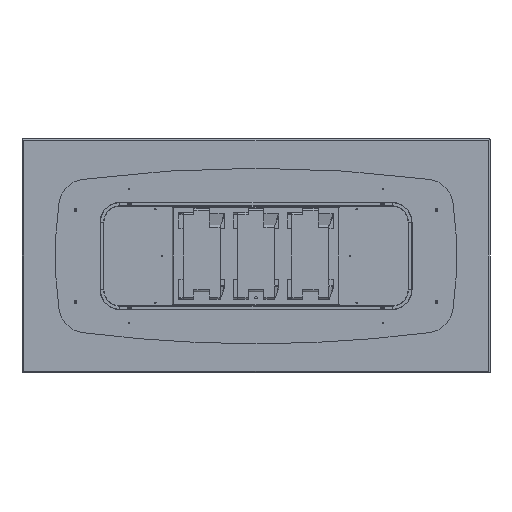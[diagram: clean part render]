
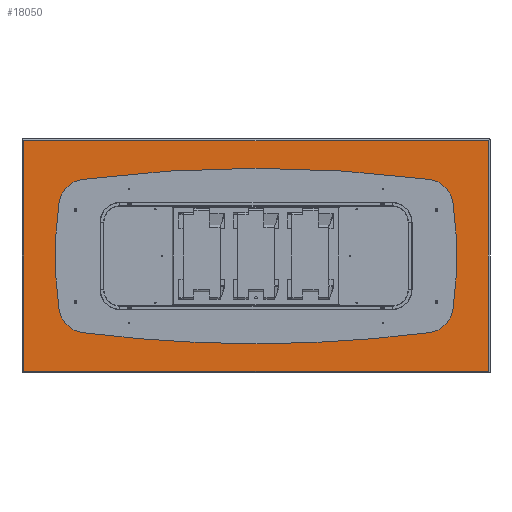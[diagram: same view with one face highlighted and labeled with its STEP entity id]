
A CAD part, front view. The second image highlights one B-rep face of the part: STEP entity #18050.
In plain terms, the highlighted planar face has unit normal (0, -1, 0).
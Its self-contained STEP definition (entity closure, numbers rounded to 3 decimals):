
#117 = CARTESIAN_POINT ( 'NONE',  ( 1190., 0., 590. ) ) ;
#355 = ORIENTED_EDGE ( 'NONE', *, *, #11805, .T. ) ;
#624 = AXIS2_PLACEMENT_3D ( 'NONE', #5022, #1563, #11272 ) ;
#660 = CARTESIAN_POINT ( 'NONE',  ( 925., 0., -235. ) ) ;
#927 = AXIS2_PLACEMENT_3D ( 'NONE', #8760, #15042, #994 ) ;
#968 = VERTEX_POINT ( 'NONE', #8060 ) ;
#994 = DIRECTION ( 'NONE',  ( 0., 0., -1. ) ) ;
#1125 = DIRECTION ( 'NONE',  ( -1., 0., 0. ) ) ;
#1134 = EDGE_CURVE ( 'NONE', #3886, #9268, #19445, .T. ) ;
#1233 = EDGE_CURVE ( 'NONE', #14430, #7913, #18279, .T. ) ;
#1496 = EDGE_LOOP ( 'NONE', ( #5544, #13724 ) ) ;
#1563 = DIRECTION ( 'NONE',  ( 0., -1., 0. ) ) ;
#1655 = CARTESIAN_POINT ( 'NONE',  ( -925., 0., 237.5 ) ) ;
#1909 = DIRECTION ( 'NONE',  ( 0., 0., -1. ) ) ;
#2216 = DIRECTION ( 'NONE',  ( 1., 0., 0. ) ) ;
#2474 = ORIENTED_EDGE ( 'NONE', *, *, #18968, .F. ) ;
#2907 = ORIENTED_EDGE ( 'NONE', *, *, #15565, .F. ) ;
#3052 = FACE_BOUND ( 'NONE', #14362, .T. ) ;
#3415 = CIRCLE ( 'NONE', #6373, 2.5 ) ;
#3654 = LINE ( 'NONE', #9905, #4503 ) ;
#3886 = VERTEX_POINT ( 'NONE', #18520 ) ;
#4503 = VECTOR ( 'NONE', #1909, 1000. ) ;
#4759 = CARTESIAN_POINT ( 'NONE',  ( -925., 0., 232.5 ) ) ;
#4763 = DIRECTION ( 'NONE',  ( 0., -1., 0. ) ) ;
#4782 = CARTESIAN_POINT ( 'NONE',  ( 925., 0., -235. ) ) ;
#4861 = DIRECTION ( 'NONE',  ( 0., 0., -1. ) ) ;
#4966 = EDGE_LOOP ( 'NONE', ( #11138, #355, #6967, #9914 ) ) ;
#5011 = EDGE_CURVE ( 'NONE', #7913, #14430, #14116, .T. ) ;
#5022 = CARTESIAN_POINT ( 'NONE',  ( -925., 0., 235. ) ) ;
#5258 = CIRCLE ( 'NONE', #5580, 2.5 ) ;
#5544 = ORIENTED_EDGE ( 'NONE', *, *, #1233, .F. ) ;
#5580 = AXIS2_PLACEMENT_3D ( 'NONE', #4782, #9583, #8041 ) ;
#5911 = FACE_OUTER_BOUND ( 'NONE', #4966, .T. ) ;
#5979 = ORIENTED_EDGE ( 'NONE', *, *, #8422, .F. ) ;
#6373 = AXIS2_PLACEMENT_3D ( 'NONE', #660, #6903, #19407 ) ;
#6499 = DIRECTION ( 'NONE',  ( 0., -1., 0. ) ) ;
#6689 = EDGE_CURVE ( 'NONE', #13114, #12060, #3415, .T. ) ;
#6755 = CARTESIAN_POINT ( 'NONE',  ( 925., 0., 235. ) ) ;
#6903 = DIRECTION ( 'NONE',  ( 0., -1., 0. ) ) ;
#6967 = ORIENTED_EDGE ( 'NONE', *, *, #1134, .T. ) ;
#7117 = CARTESIAN_POINT ( 'NONE',  ( 0., 0., -590. ) ) ;
#7347 = FACE_BOUND ( 'NONE', #1496, .T. ) ;
#7353 = CARTESIAN_POINT ( 'NONE',  ( -925., 0., -237.5 ) ) ;
#7913 = VERTEX_POINT ( 'NONE', #11130 ) ;
#8023 = CIRCLE ( 'NONE', #10657, 2.5 ) ;
#8041 = DIRECTION ( 'NONE',  ( 0., 0., -1. ) ) ;
#8060 = CARTESIAN_POINT ( 'NONE',  ( 925., 0., 232.5 ) ) ;
#8328 = LINE ( 'NONE', #14700, #12342 ) ;
#8422 = EDGE_CURVE ( 'NONE', #12060, #13114, #5258, .T. ) ;
#8742 = CARTESIAN_POINT ( 'NONE',  ( -925., 0., -235. ) ) ;
#8760 = CARTESIAN_POINT ( 'NONE',  ( -925., 0., -235. ) ) ;
#8789 = VERTEX_POINT ( 'NONE', #4759 ) ;
#9078 = CARTESIAN_POINT ( 'NONE',  ( 0., 0., 0. ) ) ;
#9132 = AXIS2_PLACEMENT_3D ( 'NONE', #16041, #6499, #4861 ) ;
#9232 = VERTEX_POINT ( 'NONE', #1655 ) ;
#9268 = VERTEX_POINT ( 'NONE', #117 ) ;
#9417 = AXIS2_PLACEMENT_3D ( 'NONE', #9078, #15264, #10631 ) ;
#9434 = VECTOR ( 'NONE', #17717, 1000. ) ;
#9579 = VERTEX_POINT ( 'NONE', #11672 ) ;
#9583 = DIRECTION ( 'NONE',  ( 0., -1., 0. ) ) ;
#9905 = CARTESIAN_POINT ( 'NONE',  ( -1190., 0., 0. ) ) ;
#9914 = ORIENTED_EDGE ( 'NONE', *, *, #17474, .T. ) ;
#10405 = CARTESIAN_POINT ( 'NONE',  ( -1190., 0., 590. ) ) ;
#10500 = AXIS2_PLACEMENT_3D ( 'NONE', #8742, #4763, #12336 ) ;
#10631 = DIRECTION ( 'NONE',  ( 0., 0., 1. ) ) ;
#10657 = AXIS2_PLACEMENT_3D ( 'NONE', #6755, #16398, #19160 ) ;
#11087 = CIRCLE ( 'NONE', #19276, 2.5 ) ;
#11130 = CARTESIAN_POINT ( 'NONE',  ( -925., 0., -232.5 ) ) ;
#11138 = ORIENTED_EDGE ( 'NONE', *, *, #11527, .T. ) ;
#11272 = DIRECTION ( 'NONE',  ( 0., 0., -1. ) ) ;
#11527 = EDGE_CURVE ( 'NONE', #16176, #12205, #3654, .T. ) ;
#11597 = VECTOR ( 'NONE', #2216, 1000. ) ;
#11672 = CARTESIAN_POINT ( 'NONE',  ( 925., 0., 237.5 ) ) ;
#11805 = EDGE_CURVE ( 'NONE', #12205, #3886, #13385, .T. ) ;
#12060 = VERTEX_POINT ( 'NONE', #17857 ) ;
#12205 = VERTEX_POINT ( 'NONE', #19484 ) ;
#12336 = DIRECTION ( 'NONE',  ( 0., 0., -1. ) ) ;
#12342 = VECTOR ( 'NONE', #1125, 1000. ) ;
#12522 = DIRECTION ( 'NONE',  ( 0., 0., -1. ) ) ;
#12991 = CARTESIAN_POINT ( 'NONE',  ( 1190., 0., 0. ) ) ;
#13114 = VERTEX_POINT ( 'NONE', #16562 ) ;
#13385 = LINE ( 'NONE', #7117, #11597 ) ;
#13669 = ORIENTED_EDGE ( 'NONE', *, *, #6689, .F. ) ;
#13724 = ORIENTED_EDGE ( 'NONE', *, *, #5011, .F. ) ;
#13916 = PLANE ( 'NONE',  #9417 ) ;
#14116 = CIRCLE ( 'NONE', #10500, 2.5 ) ;
#14169 = DIRECTION ( 'NONE',  ( 0., -1., 0. ) ) ;
#14269 = CARTESIAN_POINT ( 'NONE',  ( 925., 0., 235. ) ) ;
#14362 = EDGE_LOOP ( 'NONE', ( #16953, #2474 ) ) ;
#14430 = VERTEX_POINT ( 'NONE', #7353 ) ;
#14700 = CARTESIAN_POINT ( 'NONE',  ( 0., 0., 590. ) ) ;
#15042 = DIRECTION ( 'NONE',  ( 0., -1., 0. ) ) ;
#15264 = DIRECTION ( 'NONE',  ( 0., 1., 0. ) ) ;
#15565 = EDGE_CURVE ( 'NONE', #968, #9579, #8023, .T. ) ;
#16041 = CARTESIAN_POINT ( 'NONE',  ( -925., 0., 235. ) ) ;
#16176 = VERTEX_POINT ( 'NONE', #10405 ) ;
#16398 = DIRECTION ( 'NONE',  ( 0., -1., 0. ) ) ;
#16562 = CARTESIAN_POINT ( 'NONE',  ( 925., 0., -237.5 ) ) ;
#16953 = ORIENTED_EDGE ( 'NONE', *, *, #19852, .F. ) ;
#17288 = EDGE_LOOP ( 'NONE', ( #2907, #18539 ) ) ;
#17321 = CIRCLE ( 'NONE', #624, 2.5 ) ;
#17474 = EDGE_CURVE ( 'NONE', #9268, #16176, #8328, .T. ) ;
#17717 = DIRECTION ( 'NONE',  ( 0., 0., 1. ) ) ;
#17835 = EDGE_LOOP ( 'NONE', ( #13669, #5979 ) ) ;
#17857 = CARTESIAN_POINT ( 'NONE',  ( 925., 0., -232.5 ) ) ;
#17998 = CIRCLE ( 'NONE', #9132, 2.5 ) ;
#18050 = ADVANCED_FACE ( 'NONE', ( #18318, #7347, #3052, #20057, #5911 ), #13916, .F. ) ;
#18279 = CIRCLE ( 'NONE', #927, 2.5 ) ;
#18318 = FACE_BOUND ( 'NONE', #17835, .T. ) ;
#18520 = CARTESIAN_POINT ( 'NONE',  ( 1190., 0., -590. ) ) ;
#18539 = ORIENTED_EDGE ( 'NONE', *, *, #19056, .F. ) ;
#18968 = EDGE_CURVE ( 'NONE', #9232, #8789, #17321, .T. ) ;
#19056 = EDGE_CURVE ( 'NONE', #9579, #968, #11087, .T. ) ;
#19160 = DIRECTION ( 'NONE',  ( 0., 0., -1. ) ) ;
#19276 = AXIS2_PLACEMENT_3D ( 'NONE', #14269, #14169, #12522 ) ;
#19407 = DIRECTION ( 'NONE',  ( 0., 0., -1. ) ) ;
#19445 = LINE ( 'NONE', #12991, #9434 ) ;
#19484 = CARTESIAN_POINT ( 'NONE',  ( -1190., 0., -590. ) ) ;
#19852 = EDGE_CURVE ( 'NONE', #8789, #9232, #17998, .T. ) ;
#20057 = FACE_BOUND ( 'NONE', #17288, .T. ) ;
